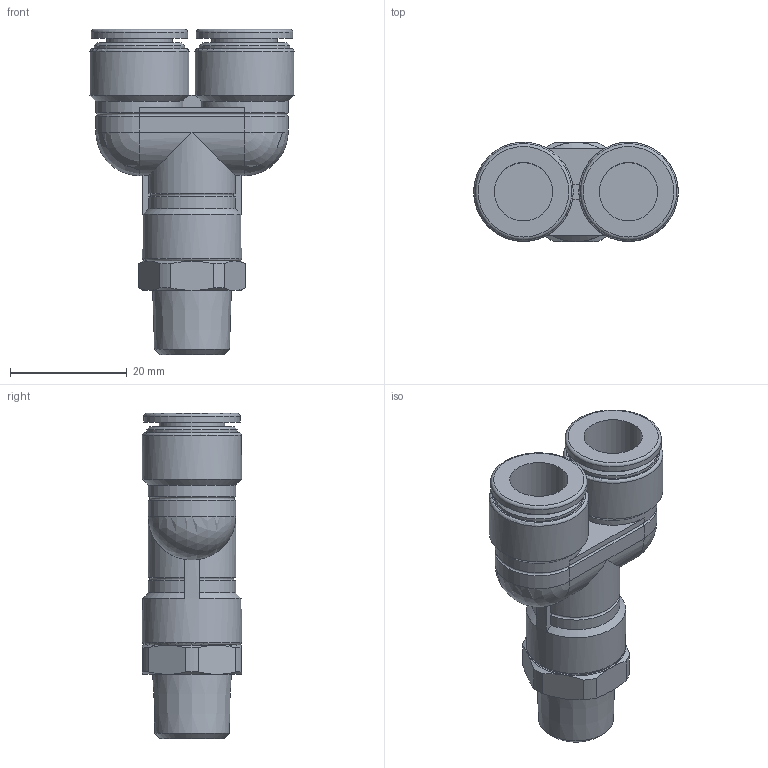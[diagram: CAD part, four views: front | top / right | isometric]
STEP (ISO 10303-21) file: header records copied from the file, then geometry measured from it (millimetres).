
FILE_DESCRIPTION(/* description */ (''),/* implementation_level */ '2;1');
FILE_NAME(/* name */ 'E:\2013年度版　3D-DATA\【02】 TOUCH CONNECTOR FIVE SUS\[04] MALE BRANCH Y\[12] FS10-02MY FS10-02MYW.stp',/* time_stamp */ '2013-08-06T16:55:55+09:00',/* author */ ('takahashi-pc2'),/* organization */ (''),/* preprocessor_version */ 'ST-DEVELOPER v15.2',/* originating_system */ 'Autodesk Inventor 2014',/* authorisation */ '');
FILE_SCHEMA (('AUTOMOTIVE_DESIGN { 1 0 10303 214 3 1 1 }'));
Length unit declared in the file: millimetre
Products named in the file (1): [12] FS10-02MY FS10-02MYW
Bounding box: 35 x 17 x 55.7 mm (x, y, z)
Volume: 13573.2 mm3; surface area: 6095.9 mm2
Topology: 1 solids, 1 shells, 92 faces, 206 edges, 122 vertices
Faces by surface type: plane 32, cylinder 29, cone 20, torus 9, sphere 2
Full cylindrical faces by diameter (mm): 10 x2, 11.2 x2, 15.5 x2, 16.5 x2, 17 x3
Entity records: 2437 total; most frequent: CARTESIAN_POINT 533, DIRECTION 414, ORIENTED_EDGE 358, AXIS2_PLACEMENT_3D 180, EDGE_CURVE 179, EDGE_LOOP 122, VERTEX_POINT 119, ADVANCED_FACE 92
